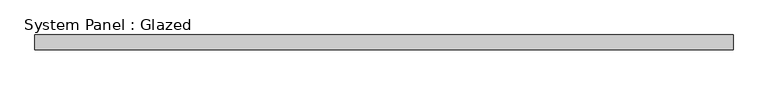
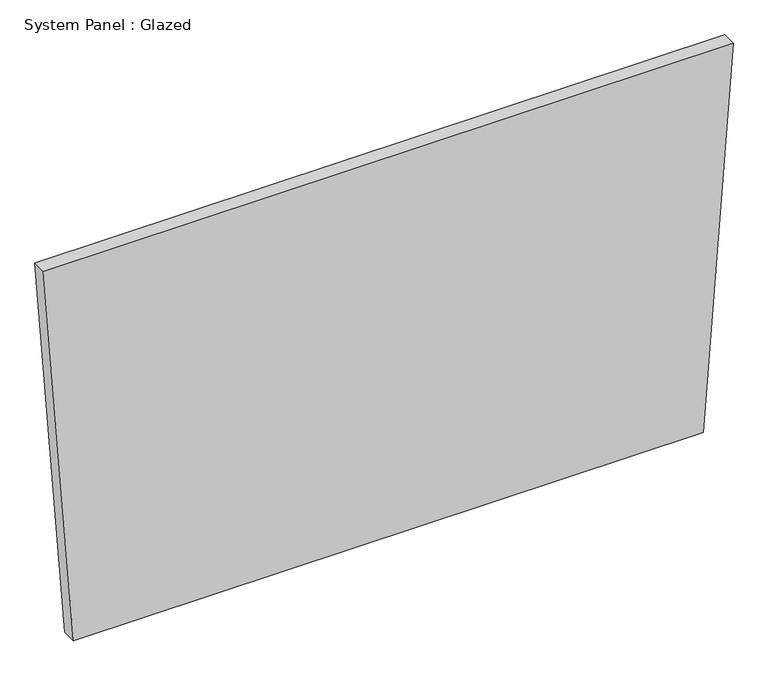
"""IFC4 building model written with IfcOpenShell, lengths in millimetres: plate geometry, System Panel : Glazed."""

from ifc_helpers import new_model, si_unit, frame, origin, place, context, project, spatial, polyline, outline, extrude, source, transform, mapped, element, save


def system_panel_glazed_d60e5a7a(model_context):
    return source(origin(), model_context, "Body", "SweptSolid", [
        extrude(outline(polyline([(0.0, -537.6057954), (0.0, 537.6048284), (684.8001473, 588.612996), (684.7871655, -588.612996), (0.0, -537.6057954)])), frame((0.0, 19.05, 0.0), z_axis=(0.0, 1.0, 0.0), x_axis=(0.0, 0.0, 1.0)), (0.0, 0.0, 1.0), 25.4),
    ])


if __name__ == "__main__":
    model = new_model("IFC4")
    model_context = context("Model", 3, world=origin())
    ifc_project = project(units=[si_unit("LENGTHUNIT", "METRE", prefix="MILLI")], contexts=[model_context])
    site = spatial("IfcSite", under=ifc_project)
    building = spatial("IfcBuilding", under=site)
    placement = place(None, origin())
    system_panel_glazed_shape = system_panel_glazed_d60e5a7a(model_context)
    element("IfcPlate", 1, ObjectType="System Panel : Glazed", at=placement, inside=building, context=model_context, shape_type="MappedRepresentation", body=[
        mapped(system_panel_glazed_shape, transform((0.0, 0.0, 0.0), x_axis=(1.0, 0.0, 0.0), y_axis=(0.0, 1.0, 0.0), z_axis=(0.0, 0.0, 1.0))),
    ])
    save(model, "model.ifc")
